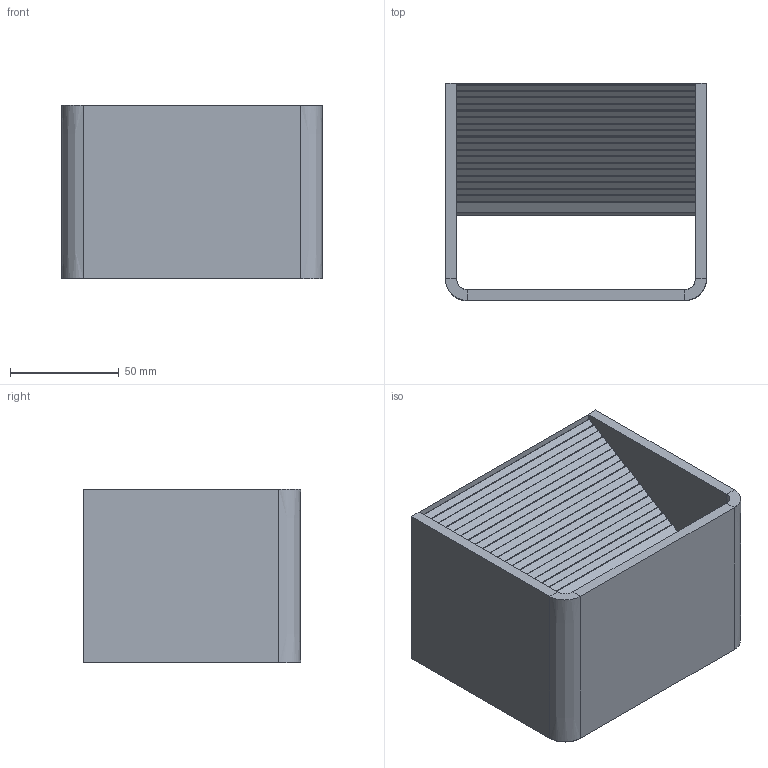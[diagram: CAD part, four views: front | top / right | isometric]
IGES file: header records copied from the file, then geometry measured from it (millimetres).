
Global section: file name: C:\Users\EQUIPO\Desktop\COLECCIONES ACB MODELADAS 3D OK\ICON\icon-16-3089-10-led (IGES).igs; native system: Rhinoceros ( Oct  8 2013 ); preprocessor: Trout Lake IGES 012 Oct  8 2013; date: 190207.091756; units: millimetre
Bounding box: 120 x 100 x 80 mm (x, y, z)
Surface area: 103422.7 mm2 (no closed solid volume)
Topology: 0 solids, 0 shells, 199 faces, 973 edges, 1014 vertices
Faces by surface type: bspline 199
